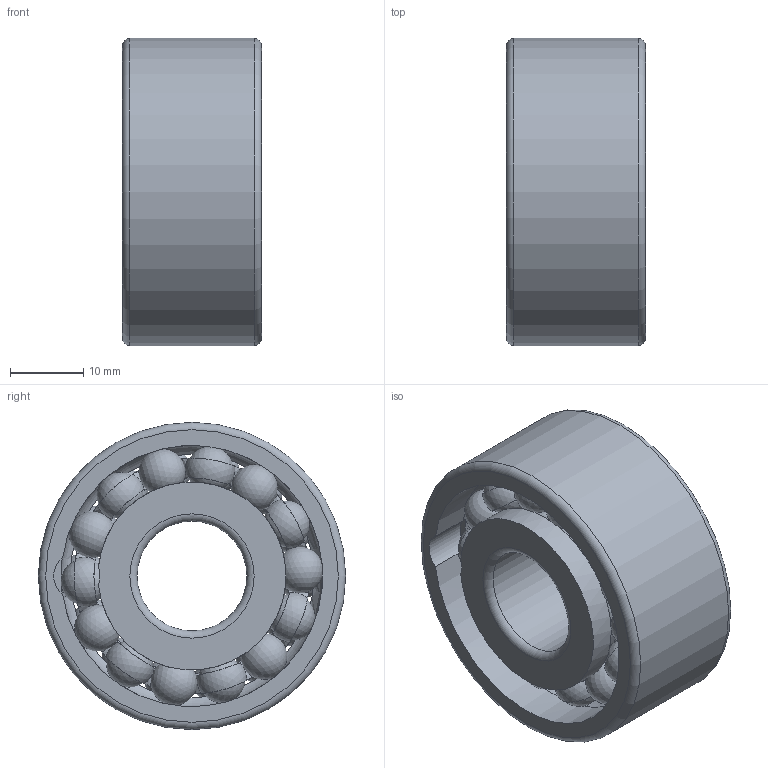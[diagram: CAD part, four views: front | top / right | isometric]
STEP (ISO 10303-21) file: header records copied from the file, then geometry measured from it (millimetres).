
FILE_DESCRIPTION(/* description */ (''),/* implementation_level */ '2;1');
FILE_NAME(/* name */ 'D:\BASISTA_PLOCHA\PARAMETRICKE PRE STP\STEP-PRE BELESTAKA\Dvojradové guľkové ložiská s kosouhlým stykom-je\3302E.stp',/* time_stamp */ '2020-02-28T14:54:27+01:00',/* author */ ('OUBASISTA'),/* organization */ (''),/* preprocessor_version */ 'ST-DEVELOPER v17.2',/* originating_system */ 'Autodesk Inventor 2019',/* authorisation */ '');
FILE_SCHEMA (('AUTOMOTIVE_DESIGN { 1 0 10303 214 3 1 1 }'));
Length unit declared in the file: millimetre
Products named in the file (5): 3302E; 3302E-02; 3302E-cage; 3302E-ball; 3302E-01
Assembly tree (32 placements, depth 2):
  3302E
    3302E-02
    3302E-cage  x2
    3302E-ball  x28
    3302E-01
Bounding box: 19 x 42 x 42 mm (x, y, z)
Volume: 17007.7 mm3; surface area: 13676.6 mm2
Topology: 32 solids, 32 shells, 389 faces, 1059 edges, 674 vertices
Faces by surface type: bspline 168, sphere 84, cylinder 68, plane 61, torus 8
Full cylindrical faces by diameter (mm): 15 x1, 23.15 x1, 25.69 x1, 32.2 x2, 33.31 x1, 35.723 x1, 42 x1
Entity records: 11249 total; most frequent: CARTESIAN_POINT 6495, ORIENTED_EDGE 1050, DIRECTION 789, EDGE_CURVE 525, VERTEX_POINT 338, AXIS2_PLACEMENT_3D 319, B_SPLINE_CURVE_WITH_KNOTS 201, EDGE_LOOP 197
